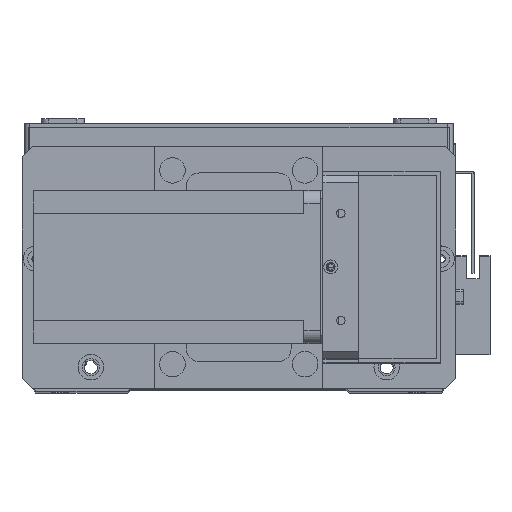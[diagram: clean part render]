
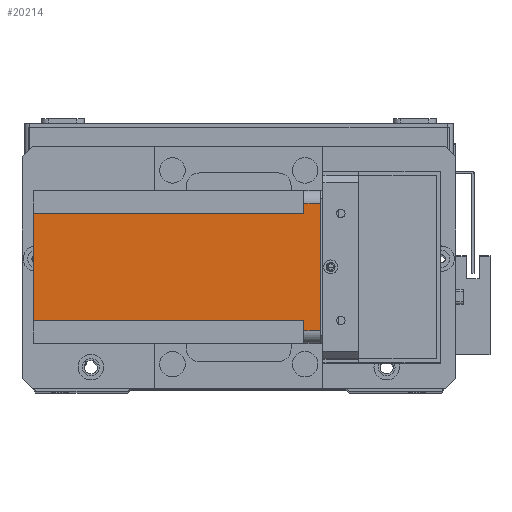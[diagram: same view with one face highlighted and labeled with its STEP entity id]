
A CAD part, top view. The second image highlights one B-rep face of the part: STEP entity #20214.
In plain terms, the highlighted planar face has unit normal (0, 0, 1) as drawn and (-1, 0, 0) by its records, which use the part's own axes.
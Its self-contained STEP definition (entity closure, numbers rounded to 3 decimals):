
#433 = LINE ( 'NONE', #11837, #28013 ) ;
#494 = LINE ( 'NONE', #24215, #17571 ) ;
#4877 = LINE ( 'NONE', #9475, #22776 ) ;
#5556 = VERTEX_POINT ( 'NONE', #19539 ) ;
#5983 = DIRECTION ( 'NONE',  ( 0., -1., 0. ) ) ;
#6043 = LINE ( 'NONE', #16607, #29910 ) ;
#6122 = CARTESIAN_POINT ( 'NONE',  ( 0., 0., 0. ) ) ;
#6131 = VECTOR ( 'NONE', #20119, 1000. ) ;
#6841 = DIRECTION ( 'NONE',  ( 0., -1., 0. ) ) ;
#7116 = VERTEX_POINT ( 'NONE', #23801 ) ;
#7230 = DIRECTION ( 'NONE',  ( -1., 0., 0. ) ) ;
#7521 = LINE ( 'NONE', #25151, #25268 ) ;
#8225 = CARTESIAN_POINT ( 'NONE',  ( 0., 0., -112.5 ) ) ;
#8420 = PLANE ( 'NONE',  #19522 ) ;
#9088 = DIRECTION ( 'NONE',  ( 0., 0., -1. ) ) ;
#9336 = VECTOR ( 'NONE', #22649, 1000. ) ;
#9475 = CARTESIAN_POINT ( 'NONE',  ( 0., 9., -112.5 ) ) ;
#10733 = CARTESIAN_POINT ( 'NONE',  ( 0., 55., -6.5 ) ) ;
#11234 = ORIENTED_EDGE ( 'NONE', *, *, #14019, .F. ) ;
#11374 = CARTESIAN_POINT ( 'NONE',  ( 0., 51., -6.5 ) ) ;
#11398 = ORIENTED_EDGE ( 'NONE', *, *, #14185, .T. ) ;
#11421 = ORIENTED_EDGE ( 'NONE', *, *, #12511, .F. ) ;
#11476 = DIRECTION ( 'NONE',  ( 0., 0., 1. ) ) ;
#11723 = VERTEX_POINT ( 'NONE', #22779 ) ;
#11759 = ORIENTED_EDGE ( 'NONE', *, *, #14670, .T. ) ;
#11780 = VECTOR ( 'NONE', #5983, 1000. ) ;
#11837 = CARTESIAN_POINT ( 'NONE',  ( 0., 5., -112.5 ) ) ;
#12171 = CARTESIAN_POINT ( 'NONE',  ( 0., 51., -112.5 ) ) ;
#12511 = EDGE_CURVE ( 'NONE', #5556, #14572, #13573, .T. ) ;
#12807 = ORIENTED_EDGE ( 'NONE', *, *, #14728, .F. ) ;
#12832 = ORIENTED_EDGE ( 'NONE', *, *, #14813, .F. ) ;
#13023 = ORIENTED_EDGE ( 'NONE', *, *, #15080, .T. ) ;
#13051 = ORIENTED_EDGE ( 'NONE', *, *, #15360, .F. ) ;
#13573 = LINE ( 'NONE', #6122, #11780 ) ;
#14019 = EDGE_CURVE ( 'NONE', #11723, #18004, #17255, .T. ) ;
#14185 = EDGE_CURVE ( 'NONE', #11723, #14572, #433, .T. ) ;
#14477 = EDGE_LOOP ( 'NONE', ( #11234, #11398, #11421, #11759, #12807, #12832, #13023, #13051 ) ) ;
#14572 = VERTEX_POINT ( 'NONE', #27324 ) ;
#14670 = EDGE_CURVE ( 'NONE', #5556, #27808, #7521, .T. ) ;
#14728 = EDGE_CURVE ( 'NONE', #17252, #27808, #494, .T. ) ;
#14813 = EDGE_CURVE ( 'NONE', #29557, #17252, #23165, .T. ) ;
#15080 = EDGE_CURVE ( 'NONE', #29557, #7116, #6043, .T. ) ;
#15360 = EDGE_CURVE ( 'NONE', #18004, #7116, #4877, .T. ) ;
#15629 = CARTESIAN_POINT ( 'NONE',  ( 0., 9., -6.5 ) ) ;
#16102 = DIRECTION ( 'NONE',  ( 0., -1., 0. ) ) ;
#16607 = CARTESIAN_POINT ( 'NONE',  ( 0., 0., -112.5 ) ) ;
#17252 = VERTEX_POINT ( 'NONE', #11374 ) ;
#17255 = LINE ( 'NONE', #21771, #6131 ) ;
#17571 = VECTOR ( 'NONE', #24129, 1000. ) ;
#18004 = VERTEX_POINT ( 'NONE', #15629 ) ;
#19475 = FACE_OUTER_BOUND ( 'NONE', #14477, .T. ) ;
#19522 = AXIS2_PLACEMENT_3D ( 'NONE', #8225, #7230, #6841 ) ;
#19539 = CARTESIAN_POINT ( 'NONE',  ( 0., 55., 0. ) ) ;
#20119 = DIRECTION ( 'NONE',  ( 0., 1., 0. ) ) ;
#20214 = ADVANCED_FACE ( 'NONE', ( #19475 ), #8420, .T. ) ;
#21771 = CARTESIAN_POINT ( 'NONE',  ( 0., 0., -6.5 ) ) ;
#22649 = DIRECTION ( 'NONE',  ( 0., 0., 1. ) ) ;
#22776 = VECTOR ( 'NONE', #9088, 1000. ) ;
#22779 = CARTESIAN_POINT ( 'NONE',  ( 0., 5., -6.5 ) ) ;
#22797 = CARTESIAN_POINT ( 'NONE',  ( 0., 51., -112.5 ) ) ;
#23165 = LINE ( 'NONE', #22797, #9336 ) ;
#23801 = CARTESIAN_POINT ( 'NONE',  ( 0., 9., -112.5 ) ) ;
#24129 = DIRECTION ( 'NONE',  ( 0., 1., 0. ) ) ;
#24215 = CARTESIAN_POINT ( 'NONE',  ( 0., 60., -6.5 ) ) ;
#25082 = DIRECTION ( 'NONE',  ( 0., 0., -1. ) ) ;
#25151 = CARTESIAN_POINT ( 'NONE',  ( 0., 55., -112.5 ) ) ;
#25268 = VECTOR ( 'NONE', #25082, 1000. ) ;
#27324 = CARTESIAN_POINT ( 'NONE',  ( 0., 5., 0. ) ) ;
#27808 = VERTEX_POINT ( 'NONE', #10733 ) ;
#28013 = VECTOR ( 'NONE', #11476, 1000. ) ;
#29557 = VERTEX_POINT ( 'NONE', #12171 ) ;
#29910 = VECTOR ( 'NONE', #16102, 1000. ) ;
